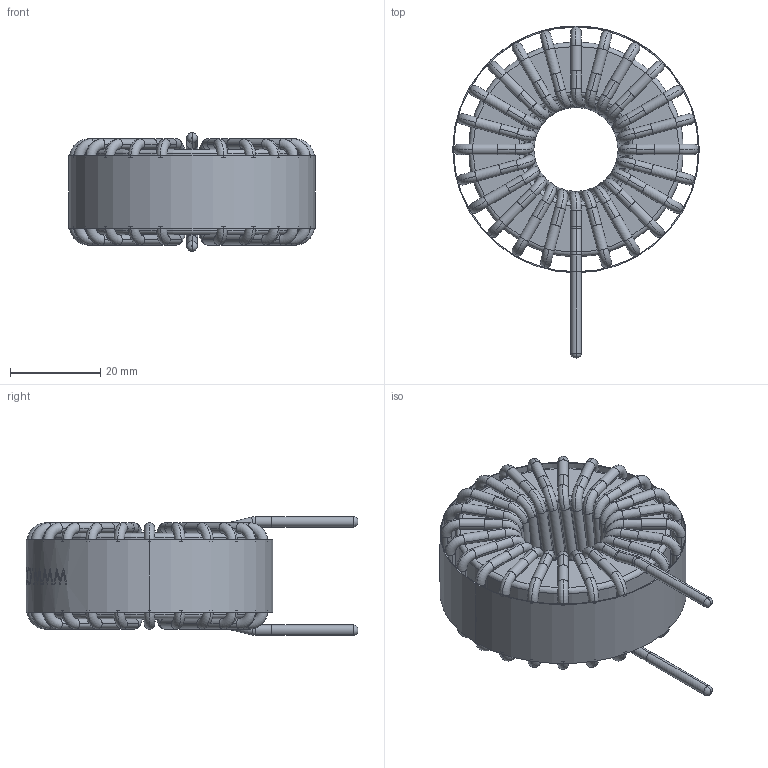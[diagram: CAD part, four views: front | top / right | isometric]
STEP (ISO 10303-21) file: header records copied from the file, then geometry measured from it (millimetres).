
FILE_DESCRIPTION (( 'STEP AP214' ), '1' );
FILE_NAME ('HF467-780M-30AV.step', '2021-03-04T09:52:44', ( '' ), ( '' ), 'SwSTEP 2.0', 'SolidWorks 2015', '' );
FILE_SCHEMA (( 'AUTOMOTIVE_DESIGN' ));
Length unit declared in the file: millimetre
Products named in the file (4): CORE; WINDING; HF467-780M-30AV; WRAPPER
Assembly tree (3 placements, depth 2):
  HF467-780M-30AV
    CORE
    WINDING
    WRAPPER
Bounding box: 54.62 x 73.49 x 26.31 mm (x, y, z)
Volume: 33002.9 mm3; surface area: 24581.3 mm2
Topology: 30 solids, 30 shells, 678 faces, 1778 edges, 1176 vertices
Faces by surface type: cylinder 272, torus 208, bspline 103, plane 95
Entity records: 38022 total; most frequent: CARTESIAN_POINT 13877, DIRECTION 3774, ORIENTED_EDGE 3556, EDGE_CURVE 1778, AXIS2_PLACEMENT_3D 1749, VERTEX_POINT 1176, CIRCLE 1168, EDGE_LOOP 698
